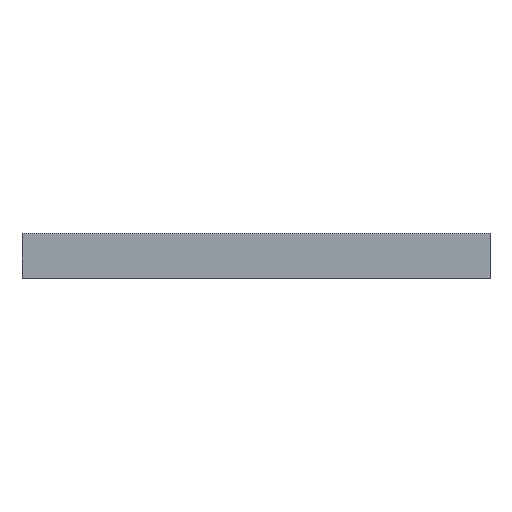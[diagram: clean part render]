
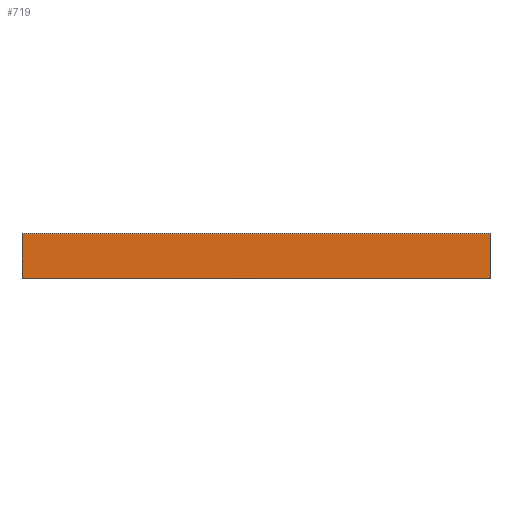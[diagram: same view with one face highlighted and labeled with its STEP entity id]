
A CAD part, top view. The second image highlights one B-rep face of the part: STEP entity #719.
In plain terms, the highlighted planar face has unit normal (0, 0, 1).
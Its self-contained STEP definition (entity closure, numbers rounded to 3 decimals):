
#4 = ORIENTED_EDGE ( 'NONE', *, *, #168, .F. ) ;
#61 = DIRECTION ( 'NONE',  ( 0., 0., -1. ) ) ;
#79 = VERTEX_POINT ( 'NONE', #597 ) ;
#116 = LINE ( 'NONE', #494, #583 ) ;
#130 = DIRECTION ( 'NONE',  ( 1., 0., 0. ) ) ;
#133 = CARTESIAN_POINT ( 'NONE',  ( -50., 4.703, 0. ) ) ;
#139 = VECTOR ( 'NONE', #130, 1000. ) ;
#140 = VERTEX_POINT ( 'NONE', #133 ) ;
#141 = CARTESIAN_POINT ( 'NONE',  ( -50., -4.703, 0. ) ) ;
#164 = AXIS2_PLACEMENT_3D ( 'NONE', #141, #61, #737 ) ;
#168 = EDGE_CURVE ( 'NONE', #375, #140, #116, .T. ) ;
#190 = ORIENTED_EDGE ( 'NONE', *, *, #249, .F. ) ;
#225 = EDGE_CURVE ( 'NONE', #375, #678, #489, .T. ) ;
#229 = CARTESIAN_POINT ( 'NONE',  ( 50., -4.703, 0. ) ) ;
#249 = EDGE_CURVE ( 'NONE', #140, #79, #778, .T. ) ;
#250 = FACE_OUTER_BOUND ( 'NONE', #682, .T. ) ;
#324 = ORIENTED_EDGE ( 'NONE', *, *, #506, .T. ) ;
#361 = DIRECTION ( 'NONE',  ( 0., 1., 0. ) ) ;
#375 = VERTEX_POINT ( 'NONE', #406 ) ;
#406 = CARTESIAN_POINT ( 'NONE',  ( -50., -4.703, 0. ) ) ;
#472 = VECTOR ( 'NONE', #720, 1000. ) ;
#487 = VECTOR ( 'NONE', #712, 1000. ) ;
#489 = LINE ( 'NONE', #738, #139 ) ;
#494 = CARTESIAN_POINT ( 'NONE',  ( -50., -4.703, 0. ) ) ;
#505 = CARTESIAN_POINT ( 'NONE',  ( 50., -4.703, 0. ) ) ;
#506 = EDGE_CURVE ( 'NONE', #678, #79, #544, .T. ) ;
#544 = LINE ( 'NONE', #229, #487 ) ;
#583 = VECTOR ( 'NONE', #361, 1000. ) ;
#597 = CARTESIAN_POINT ( 'NONE',  ( 50., 4.703, 0. ) ) ;
#632 = ORIENTED_EDGE ( 'NONE', *, *, #225, .T. ) ;
#678 = VERTEX_POINT ( 'NONE', #505 ) ;
#682 = EDGE_LOOP ( 'NONE', ( #324, #190, #4, #632 ) ) ;
#712 = DIRECTION ( 'NONE',  ( 0., 1., 0. ) ) ;
#719 = ADVANCED_FACE ( 'NONE', ( #250 ), #731, .F. ) ;
#720 = DIRECTION ( 'NONE',  ( 1., 0., 0. ) ) ;
#725 = CARTESIAN_POINT ( 'NONE',  ( -50., 4.703, 0. ) ) ;
#731 = PLANE ( 'NONE',  #164 ) ;
#737 = DIRECTION ( 'NONE',  ( 0., 1., 0. ) ) ;
#738 = CARTESIAN_POINT ( 'NONE',  ( -50., -4.703, 0. ) ) ;
#778 = LINE ( 'NONE', #725, #472 ) ;
